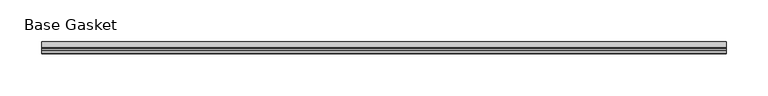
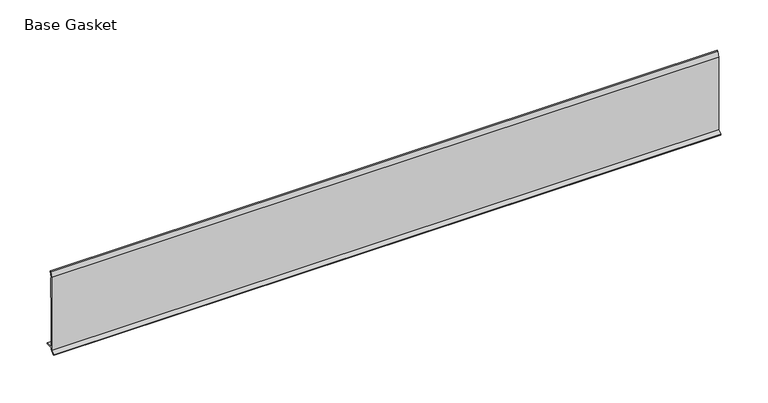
"""IFC4 building model written with IfcOpenShell, lengths in millimetres: furniture geometry, Gasket-Teknion-FHGB-AI_Healthcare-R2021 : Base Gasket."""

from ifc_helpers import new_model, si_unit, frame, origin, place, context, project, spatial, polyline, outline, extrude, source, transform, mapped, element, save


def base_gasket_af8e04c7(model_context):
    return source(origin(), model_context, "Body", "SweptSolid", [
        extrude(outline(polyline([(-3.7283812, 98.4568417), (-1.1891543, 104.587663), (-0.6755308, 105.2002997), (-0.6755308, 104.4162708), (-2.2043812, 98.4568417), (-2.2043812, 96.8693477), (-1.4106313, 96.8693477), (-1.4106313, 71.4693447), (-2.2043812, 71.4693447), (-2.2043812, 7.9398773), (6.2405171, 7.9398773), (6.2405171, 6.3818476), (-2.1334222, 6.3818476), (-2.2043812, 4.3498477), (-6.8281054, 0.3520979), (-7.8482342, 0.0), (-7.4222115, 0.6560174), (-3.7283812, 4.3498477), (-3.7283812, 98.4568417)])), frame((-1527.8982117, 0.0, 0.0), z_axis=(1.0, 0.0, 0.0), x_axis=(0.0, 1.0, 0.0)), (0.0, 0.0, 1.0), 816.4756656),
    ])


if __name__ == "__main__":
    model = new_model("IFC4")
    model_context = context("Model", 3, world=origin())
    ifc_project = project(units=[si_unit("LENGTHUNIT", "METRE", prefix="MILLI")], contexts=[model_context])
    site = spatial("IfcSite", under=ifc_project)
    building = spatial("IfcBuilding", under=site)
    placement = place(None, origin())
    base_gasket_shape = base_gasket_af8e04c7(model_context)
    element("IfcFurniture", 1, ObjectType="Gasket-Teknion-FHGB-AI_Healthcare-R2021 : Base Gasket", at=placement, inside=building, context=model_context, shape_type="MappedRepresentation", body=[
        mapped(base_gasket_shape, transform((0.0, 0.0, 0.0), x_axis=(1.0, 0.0, 0.0), y_axis=(0.0, 1.0, 0.0), z_axis=(0.0, 0.0, 1.0))),
    ])
    save(model, "model.ifc")
